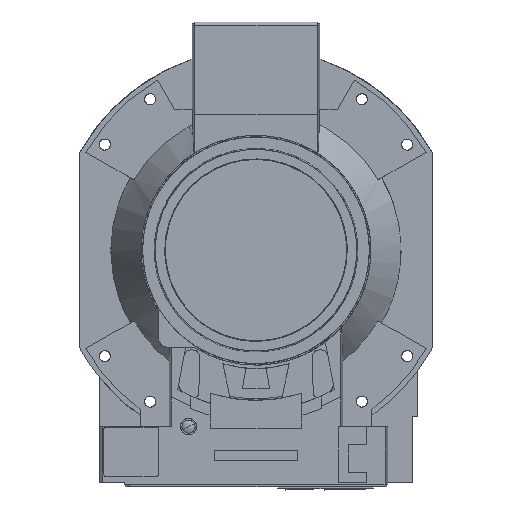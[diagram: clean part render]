
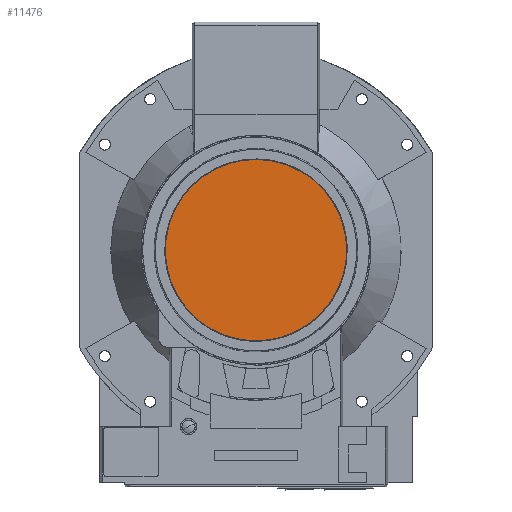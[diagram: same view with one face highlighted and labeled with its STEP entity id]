
A CAD part, top view. The second image highlights one B-rep face of the part: STEP entity #11476.
In plain terms, the highlighted planar face has unit normal (0, 0, -1).
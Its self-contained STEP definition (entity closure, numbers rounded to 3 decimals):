
#11437=CARTESIAN_POINT('Axis2P3D Location',(-211.658,-141.425,316.)) ;
#11443=CARTESIAN_POINT('Control Point',(115.456,138.094,316.)) ;
#11444=CARTESIAN_POINT('Control Point',(137.147,119.958,316.)) ;
#11445=CARTESIAN_POINT('Control Point',(155.281,97.563,316.)) ;
#11446=CARTESIAN_POINT('Control Point',(182.17,46.115,316.)) ;
#11447=CARTESIAN_POINT('Control Point',(187.467,-13.113,316.)) ;
#11448=CARTESIAN_POINT('Control Point',(161.423,-96.208,316.)) ;
#11449=CARTESIAN_POINT('Control Point',(104.222,-164.64,316.)) ;
#11450=CARTESIAN_POINT('Control Point',(17.055,-190.942,316.)) ;
#11451=CARTESIAN_POINT('Control Point',(-43.266,-183.984,316.)) ;
#11452=CARTESIAN_POINT('Control Point',(-93.763,-156.23,316.)) ;
#11453=CARTESIAN_POINT('Control Point',(-115.456,-138.094,316.)) ;
#11454=CARTESIAN_POINT('Vertex',(115.456,138.094,316.)) ;
#11456=CARTESIAN_POINT('Vertex',(-115.456,-138.094,316.)) ;
#11460=CARTESIAN_POINT('Control Point',(-115.456,-138.094,316.)) ;
#11461=CARTESIAN_POINT('Control Point',(-137.147,-119.958,316.)) ;
#11462=CARTESIAN_POINT('Control Point',(-155.281,-97.563,316.)) ;
#11463=CARTESIAN_POINT('Control Point',(-182.17,-46.115,316.)) ;
#11464=CARTESIAN_POINT('Control Point',(-187.467,13.113,316.)) ;
#11465=CARTESIAN_POINT('Control Point',(-161.423,96.208,316.)) ;
#11466=CARTESIAN_POINT('Control Point',(-104.222,164.64,316.)) ;
#11467=CARTESIAN_POINT('Control Point',(-17.055,190.942,316.)) ;
#11468=CARTESIAN_POINT('Control Point',(43.266,183.984,316.)) ;
#11469=CARTESIAN_POINT('Control Point',(93.763,156.23,316.)) ;
#11470=CARTESIAN_POINT('Control Point',(115.456,138.094,316.)) ;
#11438=DIRECTION('Axis2P3D Direction',(0.,0.,-1.)) ;
#11439=DIRECTION('Axis2P3D XDirection',(0.195,0.981,0.)) ;
#11440=AXIS2_PLACEMENT_3D('Plane Axis2P3D',#11437,#11438,#11439) ;
#11473=ORIENTED_EDGE('',*,*,#11458,.T.) ;
#11474=ORIENTED_EDGE('',*,*,#11471,.T.) ;
#11476=ADVANCED_FACE('E__A I_____',(#11475),#11441,.T.) ;
#11442=B_SPLINE_CURVE_WITH_KNOTS('',5,(#11443,#11444,#11445,#11446,#11447,#11448,#11449,#11450,#11451,#11452,#11453),.UNSPECIFIED.,.F.,.U.,(6,2,2,1,6),(0.,147.136,294.272,441.408,588.543),.UNSPECIFIED.) ;
#11459=B_SPLINE_CURVE_WITH_KNOTS('',5,(#11460,#11461,#11462,#11463,#11464,#11465,#11466,#11467,#11468,#11469,#11470),.UNSPECIFIED.,.F.,.U.,(6,2,2,1,6),(0.,147.136,294.272,441.408,588.543),.UNSPECIFIED.) ;
#11458=EDGE_CURVE('',#11455,#11457,#11442,.T.) ;
#11471=EDGE_CURVE('',#11457,#11455,#11459,.T.) ;
#11472=EDGE_LOOP('',(#11473,#11474)) ;
#11475=FACE_OUTER_BOUND('',#11472,.T.) ;
#11441=PLANE('',#11440) ;
#11455=VERTEX_POINT('',#11454) ;
#11457=VERTEX_POINT('',#11456) ;
